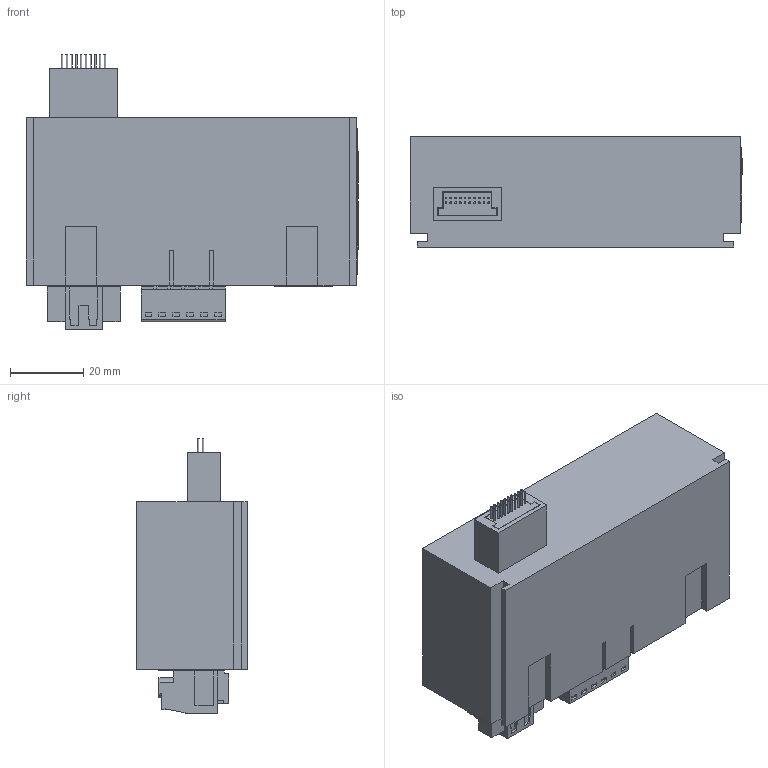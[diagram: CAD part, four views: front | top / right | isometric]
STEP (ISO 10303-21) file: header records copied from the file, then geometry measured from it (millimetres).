
FILE_DESCRIPTION(/* description */ ('STEP AP214'),/* implementation_level */ '2;1');
FILE_NAME(/* name */ 'K:\Janitza\3D-Daten\2.061.052.0\2.061.052.0 Daten-reduziert\2.061.052.0.stp',/* time_stamp */ '2019-07-02T16:11:05+02:00',/* author */ ('mh'),/* organization */ (''),/* preprocessor_version */ 'ST-DEVELOPER v18',/* originating_system */ 'Autodesk Inventor 2020',/* authorisation */ '');
FILE_SCHEMA (('AUTOMOTIVE_DESIGN { 1 0 10303 214 3 1 1 }'));
Length unit declared in the file: millimetre
Products named in the file (6): R-2.061.052.0; 2.061.052.0a; 26-LOGO; R-RJ45-2516380000; R-1001873-1792810000; R-1001875-1944330000
Assembly tree (5 placements, depth 2):
  R-2.061.052.0
    2.061.052.0a
    26-LOGO
    R-RJ45-2516380000
    R-1001873-1792810000
    R-1001875-1944330000
Bounding box: 90.78 x 30.2 x 75.3 mm (x, y, z)
Volume: 122684.8 mm3; surface area: 28146 mm2
Topology: 12 solids, 12 shells, 566 faces, 1452 edges, 971 vertices
Faces by surface type: plane 468, bspline 51, cylinder 47
Full cylindrical faces by diameter (mm): 0.5 x20, 2.7 x2, 2.9 x6, 3.8 x2, 4 x2
Entity records: 17564 total; most frequent: CARTESIAN_POINT 3668, ORIENTED_EDGE 2904, DIRECTION 2517, EDGE_CURVE 1452, LINE 1231, VECTOR 1231, VERTEX_POINT 971, AXIS2_PLACEMENT_3D 643
